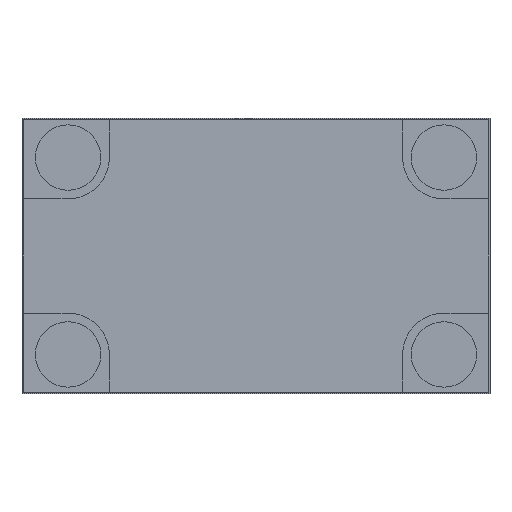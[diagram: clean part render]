
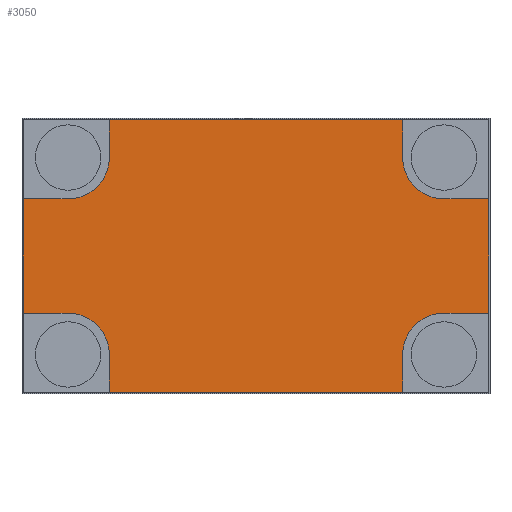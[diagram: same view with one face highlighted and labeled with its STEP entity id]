
A CAD part, front view. The second image highlights one B-rep face of the part: STEP entity #3050.
In plain terms, the highlighted planar face has unit normal (0, -1, 0).
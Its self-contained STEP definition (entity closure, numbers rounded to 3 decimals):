
#304=CARTESIAN_POINT('',(27.3,-78.,-14.3));
#305=DIRECTION('',(0.,-1.,0.));
#306=DIRECTION('',(0.,0.,1.));
#307=AXIS2_PLACEMENT_3D('',#304,#305,#306);
#309=DIRECTION('',(0.,0.,1.));
#310=VECTOR('',#309,5.5);
#311=CARTESIAN_POINT('',(21.3,-78.,-19.8));
#312=LINE('10216',#311,#310);
#313=DIRECTION('',(1.,0.,0.));
#314=VECTOR('',#313,42.6);
#315=CARTESIAN_POINT('',(-21.3,-78.,-19.8));
#316=LINE('10729',#315,#314);
#317=DIRECTION('',(0.,0.,1.));
#318=VECTOR('',#317,5.5);
#319=CARTESIAN_POINT('',(-21.3,-78.,-19.8));
#320=LINE('10222',#319,#318);
#321=CARTESIAN_POINT('',(-27.3,-78.,-14.3));
#322=DIRECTION('',(0.,-1.,0.));
#323=DIRECTION('',(1.,0.,0.));
#324=AXIS2_PLACEMENT_3D('',#321,#322,#323);
#326=DIRECTION('',(1.,0.,0.));
#327=VECTOR('',#326,6.5);
#328=CARTESIAN_POINT('',(-33.8,-78.,-8.3));
#329=LINE('10221',#328,#327);
#330=DIRECTION('',(0.,0.,-1.));
#331=VECTOR('',#330,16.6);
#332=CARTESIAN_POINT('',(-33.8,-78.,8.3));
#333=LINE('10732',#332,#331);
#334=DIRECTION('',(1.,0.,0.));
#335=VECTOR('',#334,6.5);
#336=CARTESIAN_POINT('',(-33.8,-78.,8.3));
#337=LINE('10226',#336,#335);
#338=CARTESIAN_POINT('',(-27.3,-78.,14.3));
#339=DIRECTION('',(0.,-1.,0.));
#340=DIRECTION('',(0.,0.,-1.));
#341=AXIS2_PLACEMENT_3D('',#338,#339,#340);
#343=DIRECTION('',(0.,0.,-1.));
#344=VECTOR('',#343,5.5);
#345=CARTESIAN_POINT('',(-21.3,-78.,19.8));
#346=LINE('10225',#345,#344);
#347=DIRECTION('',(-1.,0.,0.));
#348=VECTOR('',#347,42.6);
#349=CARTESIAN_POINT('',(21.3,-78.,19.8));
#350=LINE('10731',#349,#348);
#351=DIRECTION('',(0.,0.,-1.));
#352=VECTOR('',#351,5.5);
#353=CARTESIAN_POINT('',(21.3,-78.,19.8));
#354=LINE('10219',#353,#352);
#355=CARTESIAN_POINT('',(27.3,-78.,14.3));
#356=DIRECTION('',(0.,-1.,0.));
#357=DIRECTION('',(-1.,0.,0.));
#358=AXIS2_PLACEMENT_3D('',#355,#356,#357);
#360=DIRECTION('',(-1.,0.,0.));
#361=VECTOR('',#360,6.5);
#362=CARTESIAN_POINT('',(33.8,-78.,8.3));
#363=LINE('10218',#362,#361);
#364=DIRECTION('',(0.,0.,1.));
#365=VECTOR('',#364,16.6);
#366=CARTESIAN_POINT('',(33.8,-78.,-8.3));
#367=LINE('10730',#366,#365);
#368=DIRECTION('',(-1.,0.,0.));
#369=VECTOR('',#368,6.5);
#370=CARTESIAN_POINT('',(33.8,-78.,-8.3));
#371=LINE('10217',#370,#369);
#2142=CARTESIAN_POINT('',(27.3,-78.,-8.3));
#2143=CARTESIAN_POINT('',(21.3,-78.,-14.3));
#2144=VERTEX_POINT('',#2142);
#2145=VERTEX_POINT('',#2143);
#2146=CARTESIAN_POINT('',(21.3,-78.,-19.8));
#2147=VERTEX_POINT('',#2146);
#2148=CARTESIAN_POINT('',(33.8,-78.,-8.3));
#2149=VERTEX_POINT('',#2148);
#2150=CARTESIAN_POINT('',(33.8,-78.,8.3));
#2151=CARTESIAN_POINT('',(27.3,-78.,8.3));
#2152=VERTEX_POINT('',#2150);
#2153=VERTEX_POINT('',#2151);
#2154=CARTESIAN_POINT('',(21.3,-78.,19.8));
#2155=CARTESIAN_POINT('',(21.3,-78.,14.3));
#2156=VERTEX_POINT('',#2154);
#2157=VERTEX_POINT('',#2155);
#2158=CARTESIAN_POINT('',(-33.8,-78.,-8.3));
#2159=CARTESIAN_POINT('',(-27.3,-78.,-8.3));
#2160=VERTEX_POINT('',#2158);
#2161=VERTEX_POINT('',#2159);
#2162=CARTESIAN_POINT('',(-21.3,-78.,-19.8));
#2163=CARTESIAN_POINT('',(-21.3,-78.,-14.3));
#2164=VERTEX_POINT('',#2162);
#2165=VERTEX_POINT('',#2163);
#2166=CARTESIAN_POINT('',(-27.3,-78.,8.3));
#2167=CARTESIAN_POINT('',(-21.3,-78.,14.3));
#2168=VERTEX_POINT('',#2166);
#2169=VERTEX_POINT('',#2167);
#2170=CARTESIAN_POINT('',(-21.3,-78.,19.8));
#2171=VERTEX_POINT('',#2170);
#2172=CARTESIAN_POINT('',(-33.8,-78.,8.3));
#2173=VERTEX_POINT('',#2172);
#3013=CARTESIAN_POINT('',(0.,-78.,-20.));
#3014=DIRECTION('',(0.,-1.,0.));
#3015=DIRECTION('',(0.,0.,1.));
#3016=AXIS2_PLACEMENT_3D('',#3013,#3014,#3015);
#3017=PLANE('10103',#3016);
#3019=ORIENTED_EDGE('10215',*,*,#3018,.T.);
#3020=ORIENTED_EDGE('10216',*,*,#3004,.F.);
#3021=ORIENTED_EDGE('10729',*,*,#2891,.F.);
#3023=ORIENTED_EDGE('10222',*,*,#3022,.T.);
#3025=ORIENTED_EDGE('10223',*,*,#3024,.T.);
#3027=ORIENTED_EDGE('10221',*,*,#3026,.F.);
#3029=ORIENTED_EDGE('10732',*,*,#3028,.F.);
#3031=ORIENTED_EDGE('10226',*,*,#3030,.T.);
#3033=ORIENTED_EDGE('10224',*,*,#3032,.T.);
#3035=ORIENTED_EDGE('10225',*,*,#3034,.F.);
#3037=ORIENTED_EDGE('10731',*,*,#3036,.F.);
#3039=ORIENTED_EDGE('10219',*,*,#3038,.T.);
#3041=ORIENTED_EDGE('10220',*,*,#3040,.T.);
#3043=ORIENTED_EDGE('10218',*,*,#3042,.F.);
#3045=ORIENTED_EDGE('10730',*,*,#3044,.F.);
#3047=ORIENTED_EDGE('10217',*,*,#3046,.T.);
#3048=EDGE_LOOP('10103',(#3019,#3020,#3021,#3023,#3025,#3027,#3029,#3031,#3033,
#3035,#3037,#3039,#3041,#3043,#3045,#3047));
#3049=FACE_OUTER_BOUND('10103',#3048,.F.);
#3050=ADVANCED_FACE('10103',(#3049),#3017,.T.);
#308=CIRCLE('10215',#307,6.);
#325=CIRCLE('10223',#324,6.);
#342=CIRCLE('10224',#341,6.);
#359=CIRCLE('10220',#358,6.);
#2891=EDGE_CURVE('10729',#2164,#2147,#316,.T.);
#3004=EDGE_CURVE('10216',#2147,#2145,#312,.T.);
#3018=EDGE_CURVE('10215',#2144,#2145,#308,.T.);
#3022=EDGE_CURVE('10222',#2164,#2165,#320,.T.);
#3024=EDGE_CURVE('10223',#2165,#2161,#325,.T.);
#3026=EDGE_CURVE('10221',#2160,#2161,#329,.T.);
#3028=EDGE_CURVE('10732',#2173,#2160,#333,.T.);
#3030=EDGE_CURVE('10226',#2173,#2168,#337,.T.);
#3032=EDGE_CURVE('10224',#2168,#2169,#342,.T.);
#3034=EDGE_CURVE('10225',#2171,#2169,#346,.T.);
#3036=EDGE_CURVE('10731',#2156,#2171,#350,.T.);
#3038=EDGE_CURVE('10219',#2156,#2157,#354,.T.);
#3040=EDGE_CURVE('10220',#2157,#2153,#359,.T.);
#3042=EDGE_CURVE('10218',#2152,#2153,#363,.T.);
#3044=EDGE_CURVE('10730',#2149,#2152,#367,.T.);
#3046=EDGE_CURVE('10217',#2149,#2144,#371,.T.);
